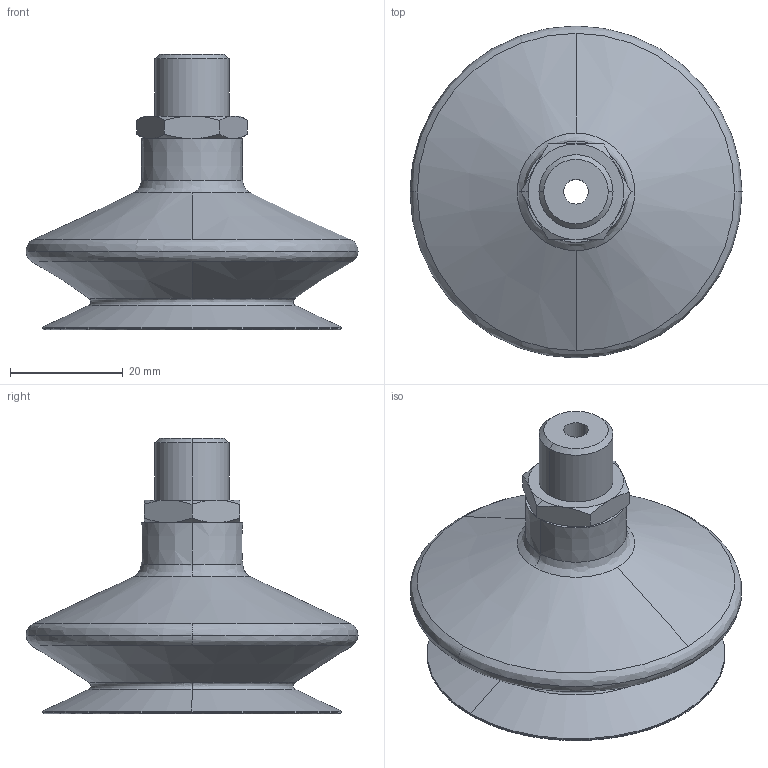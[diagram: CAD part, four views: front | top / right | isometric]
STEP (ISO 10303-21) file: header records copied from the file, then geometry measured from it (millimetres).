
FILE_DESCRIPTION (( 'STEP AP203' ), '1' );
FILE_NAME ('FSGA-53-HT1-60.STEP', '2024-03-04T03:18:44', ( '微软用户' ), ( '微软中国' ), 'SwSTEP 2.0', 'SolidWorks 2018', '' );
FILE_SCHEMA (( 'CONFIG_CONTROL_DESIGN' ));
Length unit declared in the file: millimetre
Products named in the file (1): FSGA-53-HT1-60
Bounding box: 59 x 59 x 49 mm (x, y, z)
Volume: 20130.6 mm3; surface area: 15306.4 mm2
Topology: 1 solids, 1 shells, 75 faces, 170 edges, 102 vertices
Faces by surface type: cone 32, bspline 18, plane 13, cylinder 12
Entity records: 2469 total; most frequent: CARTESIAN_POINT 744, DIRECTION 366, ORIENTED_EDGE 340, EDGE_CURVE 170, AXIS2_PLACEMENT_3D 164, CIRCLE 106, VERTEX_POINT 102, EDGE_LOOP 82
